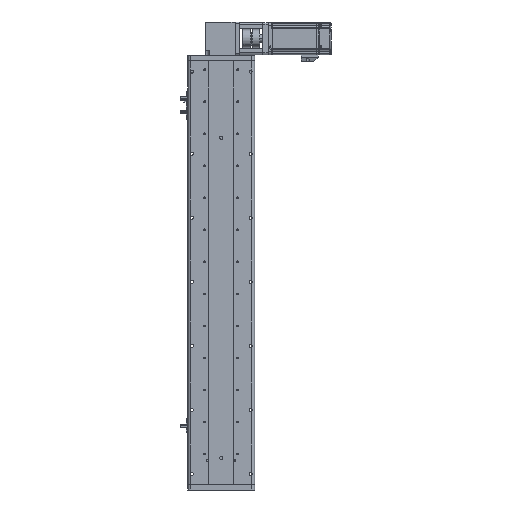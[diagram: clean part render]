
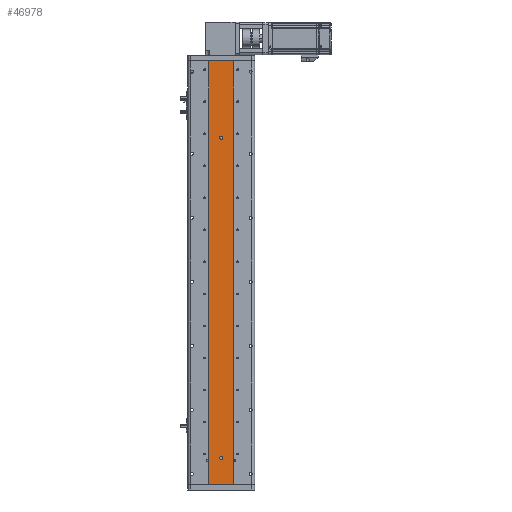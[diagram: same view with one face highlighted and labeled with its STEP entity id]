
A CAD part, front view. The second image highlights one B-rep face of the part: STEP entity #46978.
In plain terms, the highlighted planar face has unit normal (0, -1, 0).
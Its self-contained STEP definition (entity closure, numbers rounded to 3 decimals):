
#808 = VERTEX_POINT ( 'NONE', #55260 ) ;
#2643 = DIRECTION ( 'NONE',  ( 0., 0., -1. ) ) ;
#3187 = VERTEX_POINT ( 'NONE', #26961 ) ;
#3347 = EDGE_CURVE ( 'NONE', #37300, #37343, #33026, .T. ) ;
#4323 = EDGE_CURVE ( 'NONE', #18442, #3187, #57738, .T. ) ;
#6129 = ORIENTED_EDGE ( 'NONE', *, *, #4323, .F. ) ;
#6984 = EDGE_CURVE ( 'NONE', #45456, #37343, #42786, .T. ) ;
#7992 = VERTEX_POINT ( 'NONE', #25123 ) ;
#9301 = DIRECTION ( 'NONE',  ( 1., 0., 0. ) ) ;
#10478 = CIRCLE ( 'NONE', #41666, 3. ) ;
#11468 = CARTESIAN_POINT ( 'NONE',  ( 0., 1., 253. ) ) ;
#11880 = CARTESIAN_POINT ( 'NONE',  ( 0., 1., 256. ) ) ;
#12903 = VECTOR ( 'NONE', #43888, 1000. ) ;
#13050 = CARTESIAN_POINT ( 'NONE',  ( 0., 1., -347. ) ) ;
#13600 = VECTOR ( 'NONE', #21081, 1000. ) ;
#13872 = CIRCLE ( 'NONE', #30592, 3. ) ;
#15007 = CARTESIAN_POINT ( 'NONE',  ( -23., 1., 397. ) ) ;
#16173 = DIRECTION ( 'NONE',  ( 0., 0., -1. ) ) ;
#17192 = ORIENTED_EDGE ( 'NONE', *, *, #45949, .F. ) ;
#17787 = DIRECTION ( 'NONE',  ( 0., 0., -1. ) ) ;
#18442 = VERTEX_POINT ( 'NONE', #11880 ) ;
#18768 = EDGE_LOOP ( 'NONE', ( #53549, #50188, #19018, #17192 ) ) ;
#19018 = ORIENTED_EDGE ( 'NONE', *, *, #6984, .F. ) ;
#19499 = FACE_OUTER_BOUND ( 'NONE', #18768, .T. ) ;
#20643 = VECTOR ( 'NONE', #9301, 1000. ) ;
#21081 = DIRECTION ( 'NONE',  ( 0., 0., -1. ) ) ;
#22014 = ORIENTED_EDGE ( 'NONE', *, *, #60169, .F. ) ;
#22425 = DIRECTION ( 'NONE',  ( 0., 0., -1. ) ) ;
#23193 = ORIENTED_EDGE ( 'NONE', *, *, #48402, .F. ) ;
#23948 = DIRECTION ( 'NONE',  ( 0., 1., 0. ) ) ;
#24317 = AXIS2_PLACEMENT_3D ( 'NONE', #11468, #44200, #16173 ) ;
#25123 = CARTESIAN_POINT ( 'NONE',  ( 0., 1., -344. ) ) ;
#25405 = LINE ( 'NONE', #38749, #12903 ) ;
#25885 = CIRCLE ( 'NONE', #42686, 3. ) ;
#26961 = CARTESIAN_POINT ( 'NONE',  ( 0., 1., 250. ) ) ;
#27845 = CARTESIAN_POINT ( 'NONE',  ( 0., 1., -347. ) ) ;
#28375 = EDGE_LOOP ( 'NONE', ( #23193, #22014 ) ) ;
#28987 = EDGE_CURVE ( 'NONE', #53191, #37300, #38481, .T. ) ;
#30592 = AXIS2_PLACEMENT_3D ( 'NONE', #58715, #30774, #2643 ) ;
#30774 = DIRECTION ( 'NONE',  ( 0., -1., 0. ) ) ;
#31823 = CARTESIAN_POINT ( 'NONE',  ( 23., 1., 397.001 ) ) ;
#32555 = DIRECTION ( 'NONE',  ( 0., 0., -1. ) ) ;
#33026 = LINE ( 'NONE', #55972, #20643 ) ;
#37300 = VERTEX_POINT ( 'NONE', #43344 ) ;
#37343 = VERTEX_POINT ( 'NONE', #57647 ) ;
#38481 = LINE ( 'NONE', #49054, #13600 ) ;
#38749 = CARTESIAN_POINT ( 'NONE',  ( 23., 1., 397. ) ) ;
#39840 = CARTESIAN_POINT ( 'NONE',  ( 23., 1., 397. ) ) ;
#41666 = AXIS2_PLACEMENT_3D ( 'NONE', #13050, #45777, #17787 ) ;
#42521 = CARTESIAN_POINT ( 'NONE',  ( 23., 1., 397.001 ) ) ;
#42686 = AXIS2_PLACEMENT_3D ( 'NONE', #27845, #60539, #32555 ) ;
#42786 = LINE ( 'NONE', #31823, #55254 ) ;
#43344 = CARTESIAN_POINT ( 'NONE',  ( -23., 1., -397. ) ) ;
#43888 = DIRECTION ( 'NONE',  ( 1., 0., 0. ) ) ;
#44200 = DIRECTION ( 'NONE',  ( 0., -1., 0. ) ) ;
#44332 = FACE_BOUND ( 'NONE', #28375, .T. ) ;
#45456 = VERTEX_POINT ( 'NONE', #39840 ) ;
#45777 = DIRECTION ( 'NONE',  ( 0., -1., 0. ) ) ;
#45949 = EDGE_CURVE ( 'NONE', #53191, #45456, #25405, .T. ) ;
#46978 = ADVANCED_FACE ( 'NONE', ( #56747, #44332, #19499 ), #51897, .F. ) ;
#48402 = EDGE_CURVE ( 'NONE', #808, #7992, #25885, .T. ) ;
#49054 = CARTESIAN_POINT ( 'NONE',  ( -23., 1., 397.001 ) ) ;
#50188 = ORIENTED_EDGE ( 'NONE', *, *, #3347, .T. ) ;
#51417 = ORIENTED_EDGE ( 'NONE', *, *, #58040, .F. ) ;
#51897 = PLANE ( 'NONE',  #59076 ) ;
#52392 = EDGE_LOOP ( 'NONE', ( #51417, #6129 ) ) ;
#53191 = VERTEX_POINT ( 'NONE', #15007 ) ;
#53549 = ORIENTED_EDGE ( 'NONE', *, *, #28987, .T. ) ;
#55254 = VECTOR ( 'NONE', #22425, 1000. ) ;
#55260 = CARTESIAN_POINT ( 'NONE',  ( 0., 1., -350. ) ) ;
#55972 = CARTESIAN_POINT ( 'NONE',  ( 23., 1., -397. ) ) ;
#56619 = DIRECTION ( 'NONE',  ( 0., 0., 1. ) ) ;
#56747 = FACE_BOUND ( 'NONE', #52392, .T. ) ;
#57647 = CARTESIAN_POINT ( 'NONE',  ( 23., 1., -397. ) ) ;
#57738 = CIRCLE ( 'NONE', #24317, 3. ) ;
#58040 = EDGE_CURVE ( 'NONE', #3187, #18442, #13872, .T. ) ;
#58715 = CARTESIAN_POINT ( 'NONE',  ( 0., 1., 253. ) ) ;
#59076 = AXIS2_PLACEMENT_3D ( 'NONE', #42521, #23948, #56619 ) ;
#60169 = EDGE_CURVE ( 'NONE', #7992, #808, #10478, .T. ) ;
#60539 = DIRECTION ( 'NONE',  ( 0., -1., 0. ) ) ;
